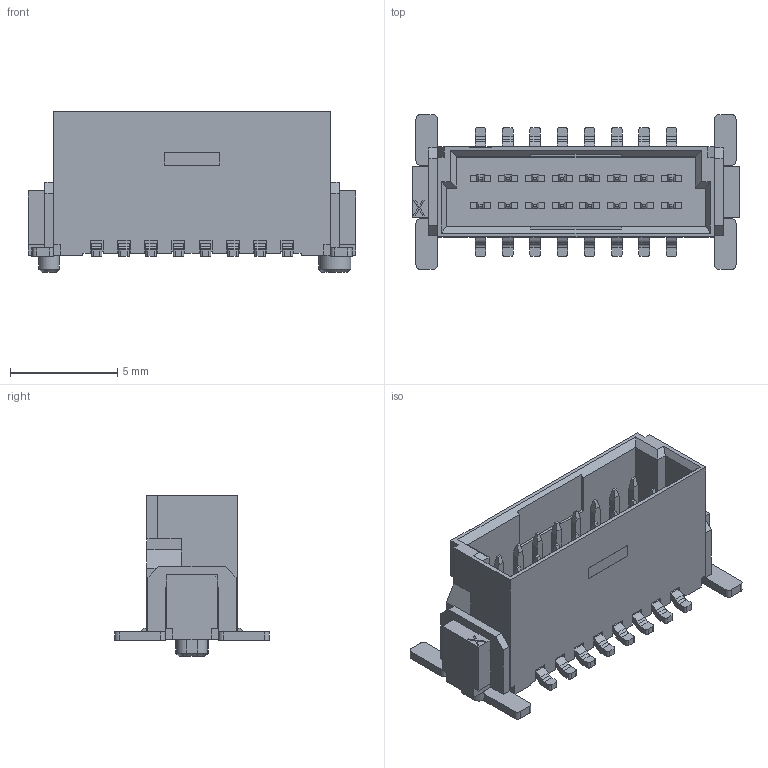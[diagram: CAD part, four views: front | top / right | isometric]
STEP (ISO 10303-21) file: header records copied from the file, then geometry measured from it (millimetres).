
FILE_DESCRIPTION(('STEP AP242'),'1');
FILE_NAME('1373828.stp','2025-03-24T16:41:13',('TraceParts'),('TraceParts S.A.'),'Spatial InterOp 3D',' ',' ');
FILE_SCHEMA(('AP242_MANAGED_MODEL_BASED_3D_ENGINEERING_MIM_LF {1 0 10303 442 1 1 4}'));
Length unit declared in the file: millimetre
Products named in the file (1): 1373828_1
Bounding box: 15.25 x 7.2 x 7.5 mm (x, y, z)
Volume: 190.7 mm3; surface area: 855.9 mm2
Topology: 19 solids, 19 shells, 818 faces, 2295 edges, 1504 vertices
Faces by surface type: plane 698, cylinder 112, cone 4, bspline 4
Entity records: 32551 total; most frequent: CARTESIAN_POINT 4720, ORIENTED_EDGE 4590, DIRECTION 4181, EDGE_CURVE 2295, LINE 2059, VECTOR 2059, VERTEX_POINT 1504, AXIS2_PLACEMENT_3D 1061
